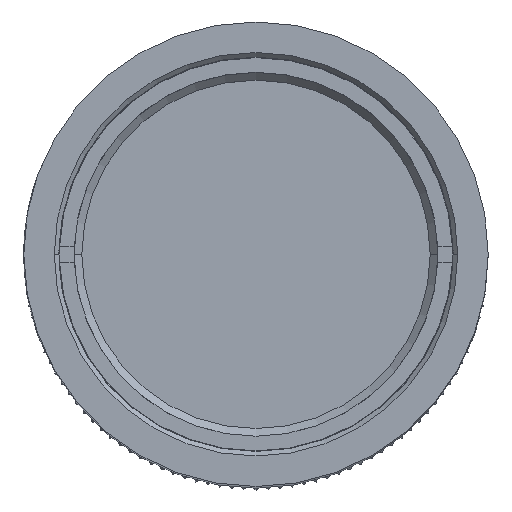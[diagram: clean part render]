
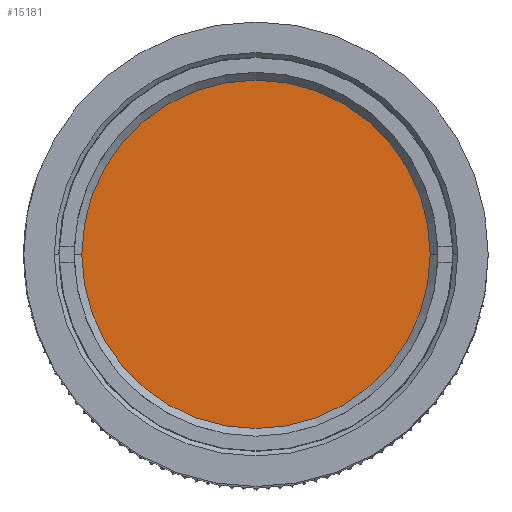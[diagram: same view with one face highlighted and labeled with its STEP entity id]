
A CAD part, top view. The second image highlights one B-rep face of the part: STEP entity #15181.
In plain terms, the highlighted planar face has unit normal (0, 0, 1).
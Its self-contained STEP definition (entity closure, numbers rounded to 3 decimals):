
#5 = ORIENTED_EDGE ( 'NONE', *, *, #2311, .T. ) ;
#2240 = VERTEX_POINT ( 'NONE', #8626 ) ;
#2311 = EDGE_CURVE ( 'NONE', #2321, #2240, #8936, .T. ) ;
#2321 = VERTEX_POINT ( 'NONE', #8945 ) ;
#8626 = CARTESIAN_POINT ( 'NONE',  ( 11.25, 0., 75.235 ) ) ;
#8854 = DIRECTION ( 'NONE',  ( 0., 0., 1. ) ) ;
#8917 = AXIS2_PLACEMENT_3D ( 'NONE', #8958, #8854, #8953 ) ;
#8936 = CIRCLE ( 'NONE', #8917, 11.25 ) ;
#8945 = CARTESIAN_POINT ( 'NONE',  ( -11.25, 0., 75.235 ) ) ;
#8953 = DIRECTION ( 'NONE',  ( -1., 0., 0. ) ) ;
#8958 = CARTESIAN_POINT ( 'NONE',  ( 0., 0., 75.235 ) ) ;
#13718 = DIRECTION ( 'NONE',  ( -1., 0., 0. ) ) ;
#13719 = DIRECTION ( 'NONE',  ( 0., 0., 1. ) ) ;
#13720 = CARTESIAN_POINT ( 'NONE',  ( 0., 0., 75.235 ) ) ;
#13721 = AXIS2_PLACEMENT_3D ( 'NONE', #13720, #13719, #13718 ) ;
#13731 = CIRCLE ( 'NONE', #13721, 11.25 ) ;
#14006 = FACE_OUTER_BOUND ( 'NONE', #14843, .T. ) ;
#14007 = AXIS2_PLACEMENT_3D ( 'NONE', #14009, #14032, #14031 ) ;
#14009 = CARTESIAN_POINT ( 'NONE',  ( 0., 0., 75.235 ) ) ;
#14031 = DIRECTION ( 'NONE',  ( -1., 0., 0. ) ) ;
#14032 = DIRECTION ( 'NONE',  ( 0., 0., -1. ) ) ;
#14035 = PLANE ( 'NONE',  #14007 ) ;
#14834 = ORIENTED_EDGE ( 'NONE', *, *, #14854, .T. ) ;
#14843 = EDGE_LOOP ( 'NONE', ( #14834, #5 ) ) ;
#14854 = EDGE_CURVE ( 'NONE', #2240, #2321, #13731, .T. ) ;
#15181 = ADVANCED_FACE ( 'NONE', ( #14006 ), #14035, .F. ) ;
